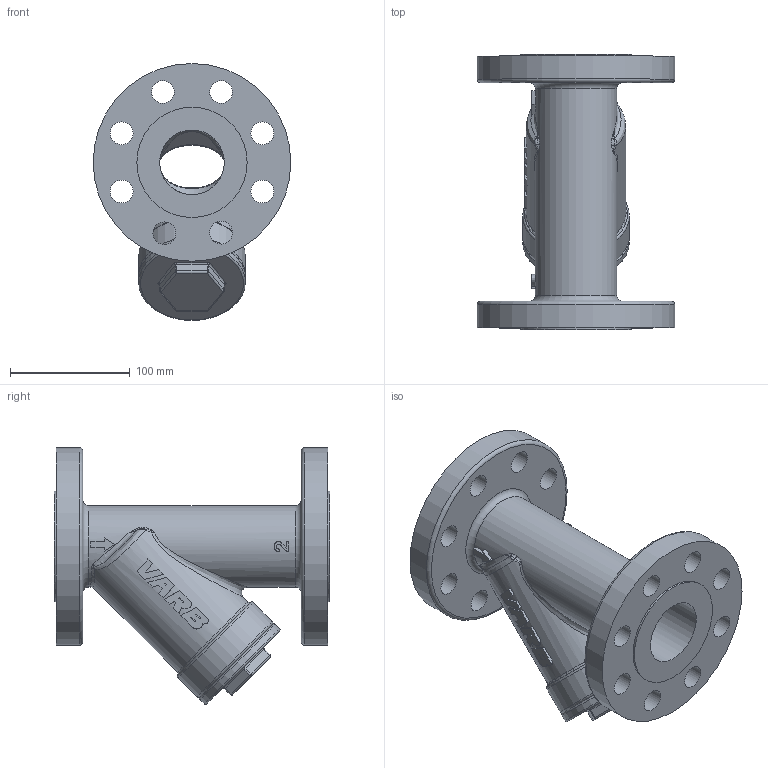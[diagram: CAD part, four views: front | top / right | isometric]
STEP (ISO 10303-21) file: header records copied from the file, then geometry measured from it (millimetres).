
FILE_DESCRIPTION( ( 'Unknown' ), '1' );
FILE_NAME( 'D:/Documentos Murilo/Desktop/VARB/2023/03_MARCO/DESENHO FILTRO FYF_01 2POL/FYF_01 2POL.stp', 'Unknown', ( 'Unknown' ), ( 'Unknown' ), 'PSStep 11.0', 'Unknown', ' ' );
FILE_SCHEMA( ( 'AUTOMOTIVE_DESIGN { 1 0 10303 214 1 1 1 1 }' ) );
Length unit declared in the file: millimetre
Products named in the file (1): 1
Bounding box: 165 x 230 x 214.46 mm (x, y, z)
Volume: 1233596.6 mm3; surface area: 241888.8 mm2
Topology: 1 solids, 1 shells, 224 faces, 550 edges, 336 vertices
Faces by surface type: plane 72, cylinder 66, bspline 57, torus 21, sphere 6, extrusion 2
Full cylindrical faces by diameter (mm): 19.05 x16, 54 x2, 68 x1, 69 x1, 75 x1, 83 x1, 89 x2, 92.1 x2, 165 x2
Entity records: 22255 total; most frequent: CARTESIAN_POINT 15790, ORIENTED_EDGE 958, DIRECTION 887, EDGE_CURVE 479, AXIS2_PLACEMENT_3D 360, VERTEX_POINT 314, EDGE_LOOP 313, FACE_OUTER_BOUND 260
